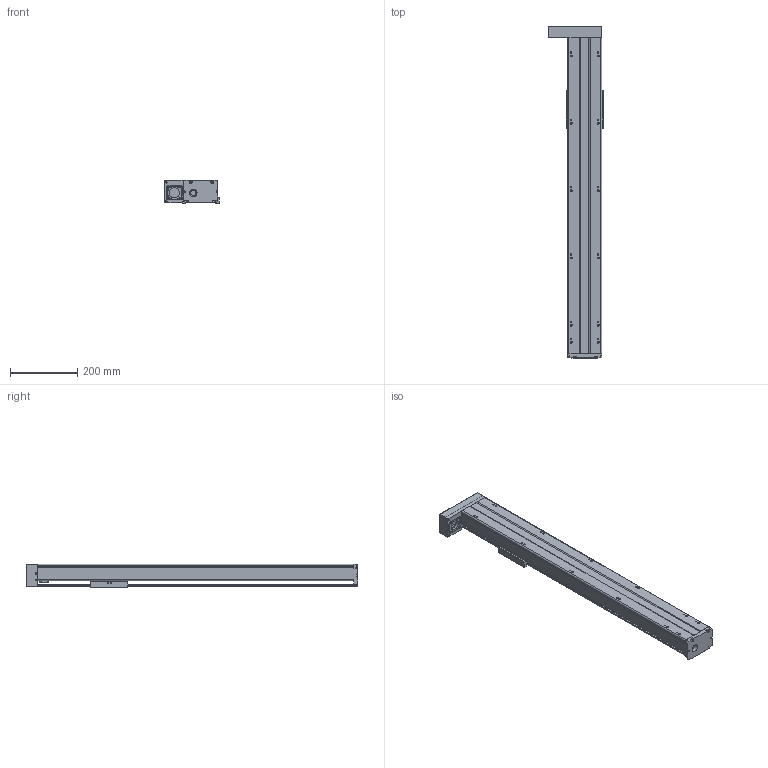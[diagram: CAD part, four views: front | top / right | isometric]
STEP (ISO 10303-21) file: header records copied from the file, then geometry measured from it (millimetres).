
FILE_DESCRIPTION(/* description */ (''),/* implementation_level */ '2;1');
FILE_NAME(/* name */ 'TKA100-FL-750_asm1.stp',/* time_stamp */ '2016-05-17T14:55:18+08:00',/* author */ (''),/* organization */ (''),/* preprocessor_version */ 'ST-DEVELOPER v15',/* originating_system */ 'SIEMENS PLM Software NX 8.5',/* authorisation */ '');
FILE_SCHEMA (('AUTOMOTIVE_DESIGN { 1 0 10303 214 3 1 1 1 }'));
Length unit declared in the file: millimetre
Products named in the file (3): 200-2; 200-1; TKA100-FL-750_asm1
Assembly tree (2 placements, depth 2):
  TKA100-FL-750_asm1
    200-1
    200-2
Bounding box: 162 x 986 x 71 mm (x, y, z)
Volume: 2098871.5 mm3; surface area: 715309 mm2
Topology: 2 solids, 16 shells, 800 faces, 2088 edges, 1357 vertices
Faces by surface type: plane 318, cylinder 305, cone 123, torus 28, bspline 26
Full cylindrical faces by diameter (mm): 2.5 x6, 2.6 x8, 3.3 x11, 3.4 x4, 3.8 x8, 4.2 x21, 4.3 x4, 4.5 x10, 5 x2, 5.5 x20, 6.6 x4, 8 x4, 9 x6, 10 x7, 11 x4, 12 x6, 15.3 x1, 16 x1, 22 x1, 24 x1, 28 x2, 30 x1, 33 x1
Entity records: 29441 total; most frequent: CARTESIAN_POINT 10807, DIRECTION 3815, ORIENTED_EDGE 3620, EDGE_CURVE 1810, AXIS2_PLACEMENT_3D 1505, VERTEX_POINT 1286, EDGE_LOOP 1111, LINE 805
